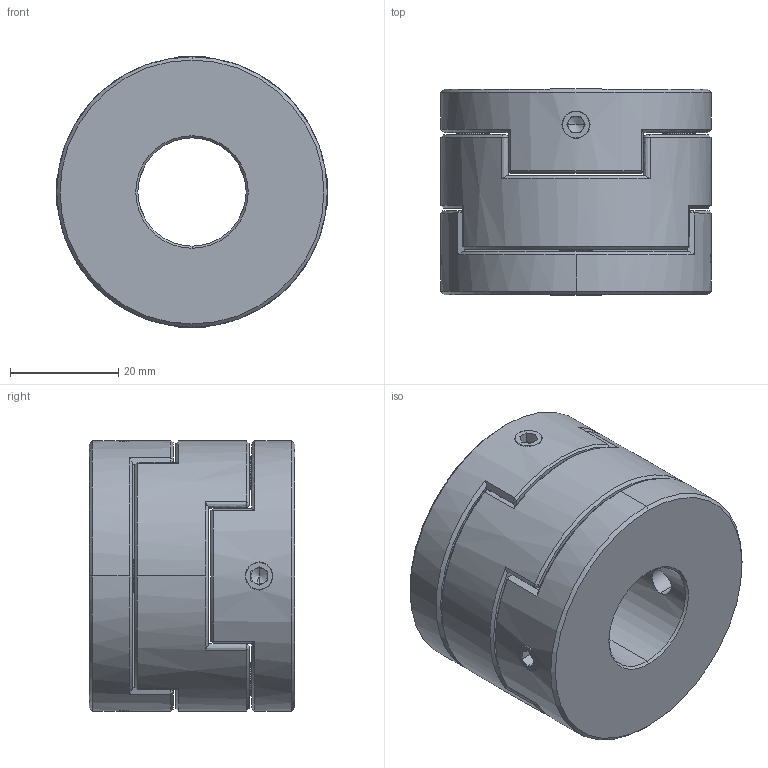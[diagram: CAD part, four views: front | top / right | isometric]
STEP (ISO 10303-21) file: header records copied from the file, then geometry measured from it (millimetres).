
FILE_DESCRIPTION (( 'STEP AP203' ), '1' );
FILE_NAME ('LZ-D-D50L38-20-24.STEP', '2021-10-30T06:05:32', ( '' ), ( '' ), 'SwSTEP 2.0', 'SolidWorks 2018', '' );
FILE_SCHEMA (( 'CONFIG_CONTROL_DESIGN' ));
Length unit declared in the file: millimetre
Products named in the file (1): LZ-D-D50L38-20-24
Bounding box: 50 x 38 x 50 mm (x, y, z)
Volume: 57345.9 mm3; surface area: 18156.4 mm2
Topology: 1 solids, 1 shells, 223 faces, 552 edges, 330 vertices
Faces by surface type: plane 89, bspline 54, cone 54, cylinder 26
Entity records: 7586 total; most frequent: CARTESIAN_POINT 2787, ORIENTED_EDGE 1088, DIRECTION 802, EDGE_CURVE 544, VERTEX_POINT 330, AXIS2_PLACEMENT_3D 290, EDGE_LOOP 248, FACE_OUTER_BOUND 223
